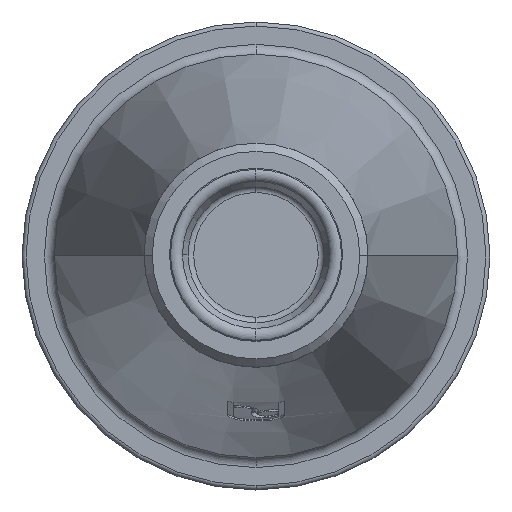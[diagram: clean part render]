
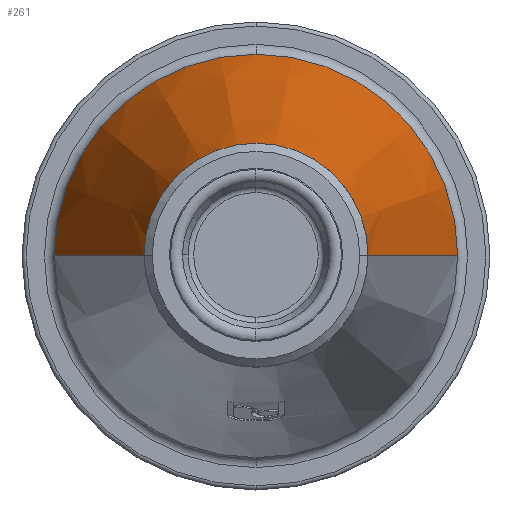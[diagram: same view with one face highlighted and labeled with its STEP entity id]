
A CAD part, top view. The second image highlights one B-rep face of the part: STEP entity #261.
In plain terms, the highlighted conical face has half-angle 12.633 degrees and reference radius 77.092 mm.
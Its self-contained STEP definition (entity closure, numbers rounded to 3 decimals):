
#261=ADVANCED_FACE('',(#583),#584,.T.);
#583=FACE_OUTER_BOUND('',#1001,.T.);
#584=CONICAL_SURFACE('',#1002,77.092,0.22);
#1001=EDGE_LOOP('',(#1604,#1605,#1606,#1607,#1608));
#1002=AXIS2_PLACEMENT_3D('',#1609,#1610,#1611);
#1604=ORIENTED_EDGE('',*,*,#2389,.T.);
#1605=ORIENTED_EDGE('',*,*,#2505,.F.);
#1606=ORIENTED_EDGE('',*,*,#2358,.F.);
#1607=ORIENTED_EDGE('',*,*,#2391,.T.);
#1608=ORIENTED_EDGE('',*,*,#2506,.T.);
#1609=CARTESIAN_POINT('',(288.116,353.078,112.207));
#1610=DIRECTION('',(0.,0.,-1.0));
#1611=DIRECTION('',(1.0,0.,0.));
#2358=EDGE_CURVE('',#2776,#2778,#2779,.T.);
#2389=EDGE_CURVE('',#2832,#2833,#2834,.T.);
#2391=EDGE_CURVE('',#2776,#2835,#2837,.T.);
#2505=EDGE_CURVE('',#2778,#2833,#3010,.T.);
#2506=EDGE_CURVE('',#2835,#2832,#3011,.T.);
#2776=VERTEX_POINT('',#3378);
#2778=VERTEX_POINT('',#3380);
#2779=CIRCLE('',#3381,99.123);
#2832=VERTEX_POINT('',#3522);
#2833=VERTEX_POINT('',#3523);
#2834=LINE('',#3524,#3525);
#2835=VERTEX_POINT('',#3526);
#2837=LINE('',#3528,#3529);
#3010=CIRCLE('',#4142,99.123);
#3011=CIRCLE('',#4143,55.061);
#3378=CARTESIAN_POINT('',(188.994,353.078,13.915));
#3380=CARTESIAN_POINT('',(288.116,452.201,13.915));
#3381=AXIS2_PLACEMENT_3D('',#4687,#4688,#4689);
#3522=CARTESIAN_POINT('',(343.177,353.078,210.5));
#3523=CARTESIAN_POINT('',(387.239,353.078,13.915));
#3524=CARTESIAN_POINT('',(365.208,353.078,112.207));
#3525=VECTOR('',#4737,1.0);
#3526=CARTESIAN_POINT('',(233.056,353.078,210.5));
#3528=CARTESIAN_POINT('',(211.025,353.078,112.207));
#3529=VECTOR('',#4741,1.0);
#4142=AXIS2_PLACEMENT_3D('',#4848,#4849,#4850);
#4143=AXIS2_PLACEMENT_3D('',#4851,#4852,#4853);
#4687=CARTESIAN_POINT('',(288.116,353.078,13.915));
#4688=DIRECTION('',(0.,0.,-1.0));
#4689=DIRECTION('',(1.0,0.,0.));
#4737=DIRECTION('',(0.219,0.,-0.976));
#4741=DIRECTION('',(0.219,0.,0.976));
#4848=CARTESIAN_POINT('',(288.116,353.078,13.915));
#4849=DIRECTION('',(0.,0.,-1.0));
#4850=DIRECTION('',(1.0,0.,0.));
#4851=CARTESIAN_POINT('',(288.116,353.078,210.5));
#4852=DIRECTION('',(0.,0.,-1.0));
#4853=DIRECTION('',(1.0,0.,0.));
